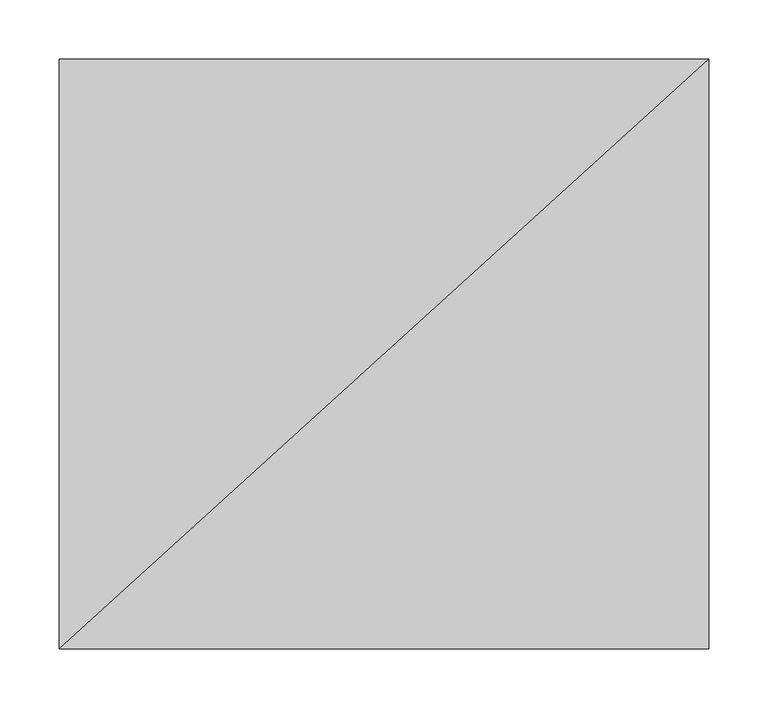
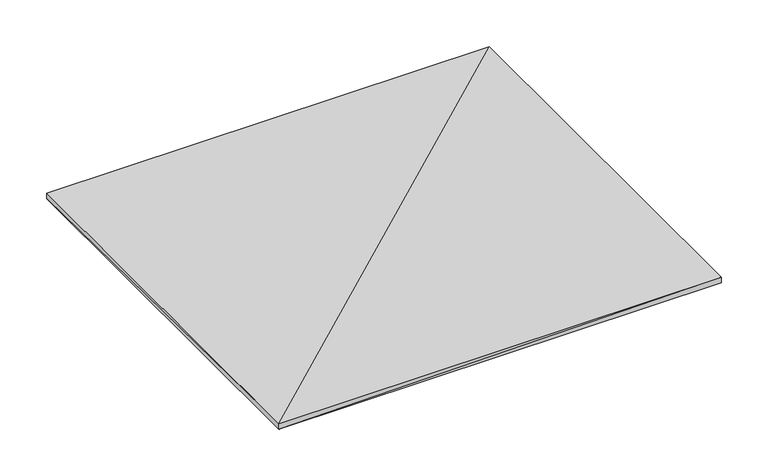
"""IFC4 building model written with IfcOpenShell, lengths in millimetres: geographic element geometry, Enscape AssetDefinition - Cooking plate : Enscape AssetDefinition - Cooking plate."""

from ifc_helpers import new_model, si_unit, origin, place, context, project, spatial, faceted_brep, source, transform, mapped, element, save


def geographic_element_5e56941c(model_context):
    return source(origin(), model_context, "Body", "Brep", [
        faceted_brep([(274.1400003, 249.01402, 0.0), (-274.1400003, -249.01402, 0.0), (-274.1400003, 249.01402, 0.0), (274.1400003, -249.01402, 0.0), (274.1400003, 249.01402, 7.0000002), (-274.1400003, -249.01402, 7.0000002), (274.1400003, -249.01402, 7.0000002), (-274.1400003, 249.01402, 7.0000002)], [[[0, 1, 2]], [[1, 0, 3]], [[4, 5, 6]], [[5, 4, 7]], [[6, 1, 3]], [[1, 6, 5]], [[4, 3, 0]], [[3, 4, 6]], [[7, 0, 2]], [[0, 7, 4]], [[5, 2, 1]], [[2, 5, 7]]]),
    ])


if __name__ == "__main__":
    model = new_model("IFC4")
    model_context = context("Model", 3, world=origin())
    ifc_project = project(units=[si_unit("LENGTHUNIT", "METRE", prefix="MILLI")], contexts=[model_context])
    site = spatial("IfcSite", under=ifc_project)
    building = spatial("IfcBuilding", under=site)
    placement = place(None, origin())
    geographic_element_shape = geographic_element_5e56941c(model_context)
    element("IfcGeographicElement", 1, ObjectType="Enscape AssetDefinition - Cooking plate : Enscape AssetDefinition - Cooking plate", at=placement, inside=building, context=model_context, shape_type="MappedRepresentation", body=[
        mapped(geographic_element_shape, transform((0.0, 0.0, 0.0), x_axis=(1.0, 0.0, 0.0), y_axis=(0.0, 1.0, 0.0), z_axis=(0.0, 0.0, 1.0))),
    ])
    save(model, "model.ifc")
